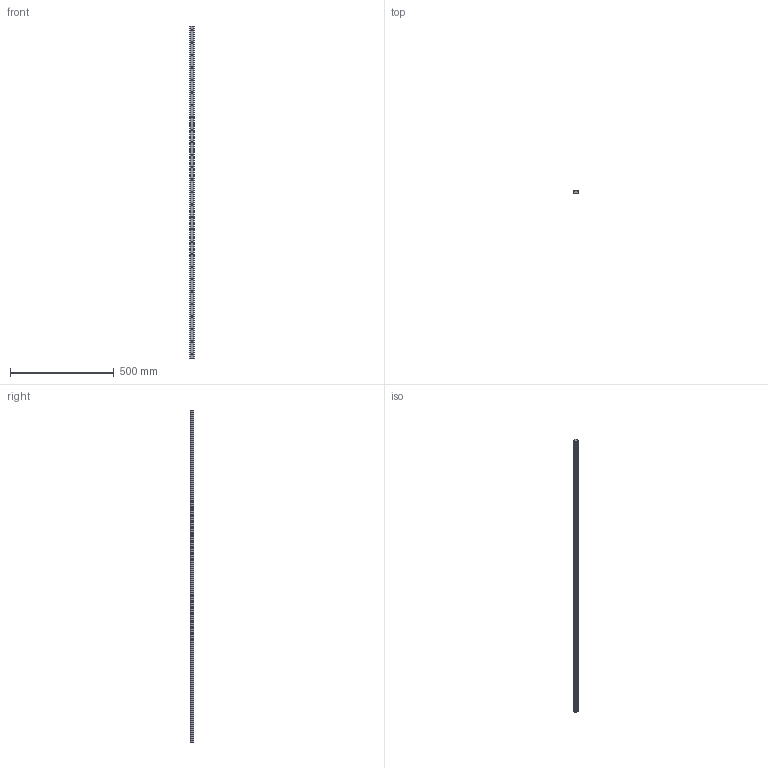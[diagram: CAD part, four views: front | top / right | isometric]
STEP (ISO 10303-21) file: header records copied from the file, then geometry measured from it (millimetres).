
FILE_DESCRIPTION (( 'STEP AP203' ), '1' );
FILE_NAME ('L1016.BL20-1600.step', '2019-06-12T11:49:58', ( '' ), ( '' ), 'SwSTEP 2.0', 'SolidWorks 2017', '' );
FILE_SCHEMA (( 'CONFIG_CONTROL_DESIGN' ));
Length unit declared in the file: millimetre
Products named in the file (1): L1016.BL20-1600
Bounding box: 20 x 16.3 x 1600 mm (x, y, z)
Volume: 444634.6 mm3; surface area: 129012.7 mm2
Topology: 1 solids, 1 shells, 161 faces, 396 edges, 264 vertices
Faces by surface type: cylinder 112, plane 49
Entity records: 5059 total; most frequent: DIRECTION 944, CARTESIAN_POINT 822, ORIENTED_EDGE 792, EDGE_CURVE 396, AXIS2_PLACEMENT_3D 386, VERTEX_POINT 264, EDGE_LOOP 242, CIRCLE 224
